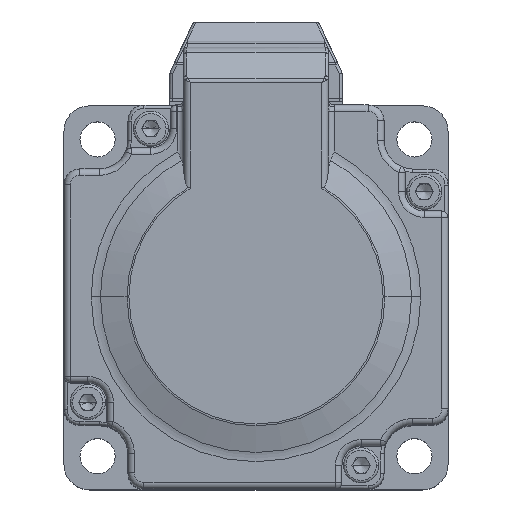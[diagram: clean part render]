
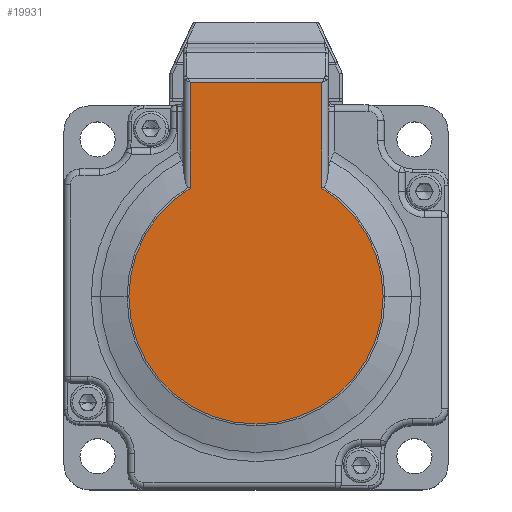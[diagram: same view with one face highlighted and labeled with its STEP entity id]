
A CAD part, top view. The second image highlights one B-rep face of the part: STEP entity #19931.
In plain terms, the highlighted planar face has unit normal (0, 0, 1).
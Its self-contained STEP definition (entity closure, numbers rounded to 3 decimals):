
#984 = VERTEX_POINT ( 'NONE', #14704 ) ;
#1688 = CARTESIAN_POINT ( 'NONE',  ( 0., 0., 96.7 ) ) ;
#2065 = DIRECTION ( 'NONE',  ( 1., 0., 0. ) ) ;
#3445 = ORIENTED_EDGE ( 'NONE', *, *, #3938, .T. ) ;
#3875 = VERTEX_POINT ( 'NONE', #32167 ) ;
#3938 = EDGE_CURVE ( 'NONE', #984, #5992, #34465, .T. ) ;
#4214 = LINE ( 'NONE', #30636, #7796 ) ;
#5423 = CARTESIAN_POINT ( 'NONE',  ( 0., 0., 96.7 ) ) ;
#5992 = VERTEX_POINT ( 'NONE', #16559 ) ;
#6754 = DIRECTION ( 'NONE',  ( -1., 0., 0. ) ) ;
#6833 = CARTESIAN_POINT ( 'NONE',  ( 0., 0., 96.7 ) ) ;
#7501 = DIRECTION ( 'NONE',  ( 0., 0., 1. ) ) ;
#7796 = VECTOR ( 'NONE', #16709, 1000. ) ;
#8281 = DIRECTION ( 'NONE',  ( 0., 0., 1. ) ) ;
#9408 = ORIENTED_EDGE ( 'NONE', *, *, #35274, .T. ) ;
#9689 = EDGE_CURVE ( 'NONE', #3875, #26193, #29062, .T. ) ;
#10149 = ORIENTED_EDGE ( 'NONE', *, *, #17384, .T. ) ;
#12293 = VERTEX_POINT ( 'NONE', #24417 ) ;
#12503 = DIRECTION ( 'NONE',  ( 1., 0., 0. ) ) ;
#13600 = CIRCLE ( 'NONE', #22559, 19.853 ) ;
#14308 = FACE_OUTER_BOUND ( 'NONE', #14395, .T. ) ;
#14395 = EDGE_LOOP ( 'NONE', ( #3445, #9408, #27613, #23912, #10149, #16475 ) ) ;
#14704 = CARTESIAN_POINT ( 'NONE',  ( 10.3, 33.486, 96.7 ) ) ;
#15379 = LINE ( 'NONE', #17491, #19780 ) ;
#16317 = EDGE_CURVE ( 'NONE', #26193, #12293, #18974, .T. ) ;
#16475 = ORIENTED_EDGE ( 'NONE', *, *, #30353, .T. ) ;
#16559 = CARTESIAN_POINT ( 'NONE',  ( -10.3, 33.486, 96.7 ) ) ;
#16685 = DIRECTION ( 'NONE',  ( 1., 0., 0. ) ) ;
#16709 = DIRECTION ( 'NONE',  ( 0., 1., 0. ) ) ;
#17163 = PLANE ( 'NONE',  #23314 ) ;
#17384 = EDGE_CURVE ( 'NONE', #12293, #23182, #13600, .T. ) ;
#17491 = CARTESIAN_POINT ( 'NONE',  ( -10.3, 16.502, 96.7 ) ) ;
#18103 = CARTESIAN_POINT ( 'NONE',  ( -11.3, 33.486, 96.7 ) ) ;
#18677 = VECTOR ( 'NONE', #6754, 1000. ) ;
#18761 = DIRECTION ( 'NONE',  ( 0., 0., 1. ) ) ;
#18974 = CIRCLE ( 'NONE', #27450, 19.853 ) ;
#19780 = VECTOR ( 'NONE', #20676, 1000. ) ;
#19931 = ADVANCED_FACE ( 'NONE', ( #14308 ), #17163, .T. ) ;
#20676 = DIRECTION ( 'NONE',  ( 0., -1., 0. ) ) ;
#22559 = AXIS2_PLACEMENT_3D ( 'NONE', #1688, #7501, #2065 ) ;
#23182 = VERTEX_POINT ( 'NONE', #30870 ) ;
#23314 = AXIS2_PLACEMENT_3D ( 'NONE', #5423, #8281, #16685 ) ;
#23912 = ORIENTED_EDGE ( 'NONE', *, *, #16317, .T. ) ;
#24417 = CARTESIAN_POINT ( 'NONE',  ( 19.853, 0., 96.7 ) ) ;
#26193 = VERTEX_POINT ( 'NONE', #35787 ) ;
#26476 = DIRECTION ( 'NONE',  ( 0., 0., 1. ) ) ;
#27450 = AXIS2_PLACEMENT_3D ( 'NONE', #6833, #26476, #12503 ) ;
#27550 = CARTESIAN_POINT ( 'NONE',  ( 0., 0., 96.7 ) ) ;
#27613 = ORIENTED_EDGE ( 'NONE', *, *, #9689, .T. ) ;
#29062 = CIRCLE ( 'NONE', #29248, 19.853 ) ;
#29248 = AXIS2_PLACEMENT_3D ( 'NONE', #27550, #18761, #29876 ) ;
#29876 = DIRECTION ( 'NONE',  ( 1., 0., 0. ) ) ;
#30353 = EDGE_CURVE ( 'NONE', #23182, #984, #4214, .T. ) ;
#30636 = CARTESIAN_POINT ( 'NONE',  ( 10.3, 33.9, 96.7 ) ) ;
#30870 = CARTESIAN_POINT ( 'NONE',  ( 10.3, 16.972, 96.7 ) ) ;
#32167 = CARTESIAN_POINT ( 'NONE',  ( -10.3, 16.972, 96.7 ) ) ;
#34465 = LINE ( 'NONE', #18103, #18677 ) ;
#35274 = EDGE_CURVE ( 'NONE', #5992, #3875, #15379, .T. ) ;
#35787 = CARTESIAN_POINT ( 'NONE',  ( -19.853, 0., 96.7 ) ) ;
